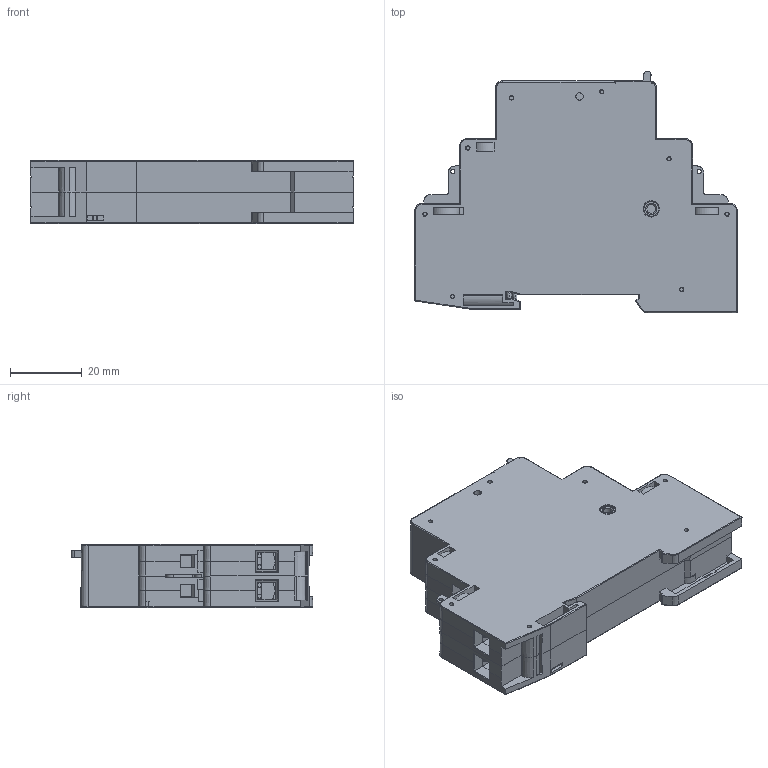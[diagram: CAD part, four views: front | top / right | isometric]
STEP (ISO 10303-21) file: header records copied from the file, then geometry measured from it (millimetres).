
FILE_DESCRIPTION (( 'STEP AP214' ), '1' );
FILE_NAME ('MIG-20-11_20__MIG-32-11_20__upr2.step', '2014-08-28T05:04:32', ( '' ), ( '' ), 'SwSTEP 2.0', 'SolidWorks 2011', '' );
FILE_SCHEMA (( 'AUTOMOTIVE_DESIGN' ));
Length unit declared in the file: millimetre
Products named in the file (1): MIG-20-11_20__MIG-32-11_20__upr2
Bounding box: 90 x 67.45 x 17.6 mm (x, y, z)
Volume: 73051 mm3; surface area: 18693.2 mm2
Topology: 1 solids, 1 shells, 1686 faces, 4636 edges, 2994 vertices
Faces by surface type: plane 850, cylinder 376, bspline 176, cone 147, torus 134, sphere 3
Entity records: 99065 total; most frequent: CARTESIAN_POINT 41518, ORIENTED_EDGE 9244, DIRECTION 6328, EDGE_CURVE 4622, VERTEX_POINT 2994, VECTOR 2476, LINE 2476, AXIS2_PLACEMENT_3D 1926
